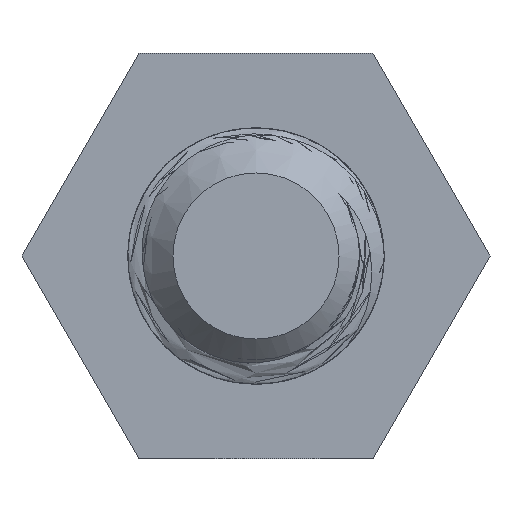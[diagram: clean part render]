
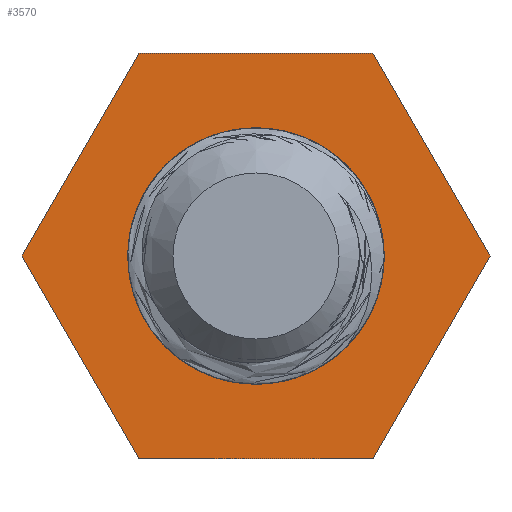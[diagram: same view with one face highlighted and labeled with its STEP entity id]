
A CAD part, front view. The second image highlights one B-rep face of the part: STEP entity #3570.
In plain terms, the highlighted planar face has unit normal (0, -1, 0).
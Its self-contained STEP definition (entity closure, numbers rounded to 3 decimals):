
#66 = PLANE ( 'NONE',  #1555 ) ;
#172 = EDGE_CURVE ( 'NONE', #1405, #1459, #855, .T. ) ;
#201 = DIRECTION ( 'NONE',  ( -1., 0., 0. ) ) ;
#312 = ORIENTED_EDGE ( 'NONE', *, *, #1844, .T. ) ;
#345 = CARTESIAN_POINT ( 'NONE',  ( -1.299, 0., -2.25 ) ) ;
#387 = CARTESIAN_POINT ( 'NONE',  ( 0., 0., 0. ) ) ;
#480 = LINE ( 'NONE', #2744, #2850 ) ;
#505 = CARTESIAN_POINT ( 'NONE',  ( -1.299, 0., 2.25 ) ) ;
#514 = VERTEX_POINT ( 'NONE', #2167 ) ;
#556 = AXIS2_PLACEMENT_3D ( 'NONE', #1009, #2764, #2160 ) ;
#607 = DIRECTION ( 'NONE',  ( 0.5, 0., -0.866 ) ) ;
#645 = DIRECTION ( 'NONE',  ( 0., 0., 1. ) ) ;
#682 = LINE ( 'NONE', #3188, #1191 ) ;
#725 = ORIENTED_EDGE ( 'NONE', *, *, #3688, .F. ) ;
#855 = CIRCLE ( 'NONE', #2190, 1.422 ) ;
#920 = DIRECTION ( 'NONE',  ( 0., 1., 0. ) ) ;
#932 = CARTESIAN_POINT ( 'NONE',  ( -1.299, 0., 2.25 ) ) ;
#968 = DIRECTION ( 'NONE',  ( 0., 1., 0. ) ) ;
#971 = DIRECTION ( 'NONE',  ( -0.5, 0., -0.866 ) ) ;
#975 = DIRECTION ( 'NONE',  ( 0., 0., 1. ) ) ;
#1009 = CARTESIAN_POINT ( 'NONE',  ( 0., 0., 0. ) ) ;
#1029 = CARTESIAN_POINT ( 'NONE',  ( 1.299, 0., -2.25 ) ) ;
#1051 = CIRCLE ( 'NONE', #556, 1.422 ) ;
#1075 = CARTESIAN_POINT ( 'NONE',  ( -2.598, 0., 0. ) ) ;
#1191 = VECTOR ( 'NONE', #607, 1000. ) ;
#1201 = VECTOR ( 'NONE', #2521, 1000. ) ;
#1214 = CARTESIAN_POINT ( 'NONE',  ( 0., 0., 0. ) ) ;
#1359 = LINE ( 'NONE', #1075, #2670 ) ;
#1370 = CARTESIAN_POINT ( 'NONE',  ( -1.299, 0., -2.25 ) ) ;
#1405 = VERTEX_POINT ( 'NONE', #1713 ) ;
#1459 = VERTEX_POINT ( 'NONE', #2578 ) ;
#1482 = EDGE_LOOP ( 'NONE', ( #1615, #2522, #1540, #2935, #3284, #725 ) ) ;
#1513 = FACE_OUTER_BOUND ( 'NONE', #1482, .T. ) ;
#1520 = VECTOR ( 'NONE', #971, 1000. ) ;
#1540 = ORIENTED_EDGE ( 'NONE', *, *, #1808, .F. ) ;
#1555 = AXIS2_PLACEMENT_3D ( 'NONE', #1214, #968, #645 ) ;
#1615 = ORIENTED_EDGE ( 'NONE', *, *, #3392, .F. ) ;
#1713 = CARTESIAN_POINT ( 'NONE',  ( 1.422, 0., -0.02 ) ) ;
#1787 = VERTEX_POINT ( 'NONE', #1029 ) ;
#1808 = EDGE_CURVE ( 'NONE', #3412, #2108, #3588, .T. ) ;
#1844 = EDGE_CURVE ( 'NONE', #1459, #1405, #1051, .T. ) ;
#1861 = VECTOR ( 'NONE', #2046, 1000. ) ;
#1882 = ORIENTED_EDGE ( 'NONE', *, *, #172, .T. ) ;
#1966 = EDGE_CURVE ( 'NONE', #1787, #3412, #480, .T. ) ;
#2046 = DIRECTION ( 'NONE',  ( 1., 0., 0. ) ) ;
#2108 = VERTEX_POINT ( 'NONE', #2229 ) ;
#2142 = LINE ( 'NONE', #3569, #1520 ) ;
#2160 = DIRECTION ( 'NONE',  ( 0., 0., 1. ) ) ;
#2167 = CARTESIAN_POINT ( 'NONE',  ( 1.299, 0., 2.25 ) ) ;
#2178 = EDGE_CURVE ( 'NONE', #2108, #2258, #1359, .T. ) ;
#2190 = AXIS2_PLACEMENT_3D ( 'NONE', #387, #920, #975 ) ;
#2229 = CARTESIAN_POINT ( 'NONE',  ( -2.598, 0., 0. ) ) ;
#2258 = VERTEX_POINT ( 'NONE', #505 ) ;
#2521 = DIRECTION ( 'NONE',  ( -0.5, 0., 0.866 ) ) ;
#2522 = ORIENTED_EDGE ( 'NONE', *, *, #2178, .F. ) ;
#2578 = CARTESIAN_POINT ( 'NONE',  ( 1.002, 0., -1.009 ) ) ;
#2634 = EDGE_LOOP ( 'NONE', ( #1882, #312 ) ) ;
#2670 = VECTOR ( 'NONE', #3369, 1000. ) ;
#2684 = FACE_BOUND ( 'NONE', #2634, .T. ) ;
#2744 = CARTESIAN_POINT ( 'NONE',  ( 1.299, 0., -2.25 ) ) ;
#2764 = DIRECTION ( 'NONE',  ( 0., 1., 0. ) ) ;
#2850 = VECTOR ( 'NONE', #201, 1000. ) ;
#2900 = EDGE_CURVE ( 'NONE', #3515, #1787, #2142, .T. ) ;
#2928 = LINE ( 'NONE', #932, #1861 ) ;
#2935 = ORIENTED_EDGE ( 'NONE', *, *, #1966, .F. ) ;
#3188 = CARTESIAN_POINT ( 'NONE',  ( 1.299, 0., 2.25 ) ) ;
#3225 = CARTESIAN_POINT ( 'NONE',  ( 2.598, 0., 0. ) ) ;
#3284 = ORIENTED_EDGE ( 'NONE', *, *, #2900, .F. ) ;
#3369 = DIRECTION ( 'NONE',  ( 0.5, 0., 0.866 ) ) ;
#3392 = EDGE_CURVE ( 'NONE', #2258, #514, #2928, .T. ) ;
#3412 = VERTEX_POINT ( 'NONE', #345 ) ;
#3515 = VERTEX_POINT ( 'NONE', #3225 ) ;
#3569 = CARTESIAN_POINT ( 'NONE',  ( 2.598, 0., 0. ) ) ;
#3570 = ADVANCED_FACE ( 'NONE', ( #2684, #1513 ), #66, .F. ) ;
#3588 = LINE ( 'NONE', #1370, #1201 ) ;
#3688 = EDGE_CURVE ( 'NONE', #514, #3515, #682, .T. ) ;
